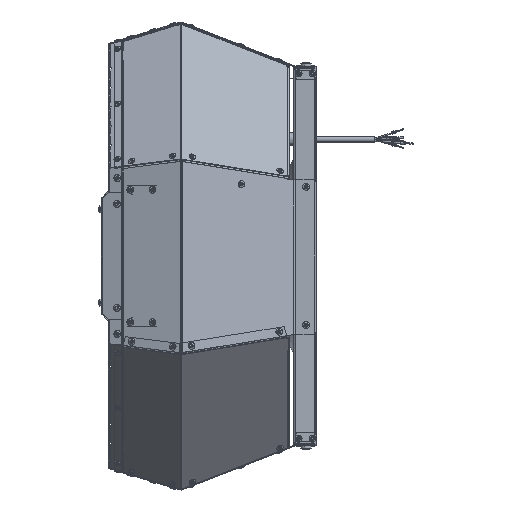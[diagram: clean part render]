
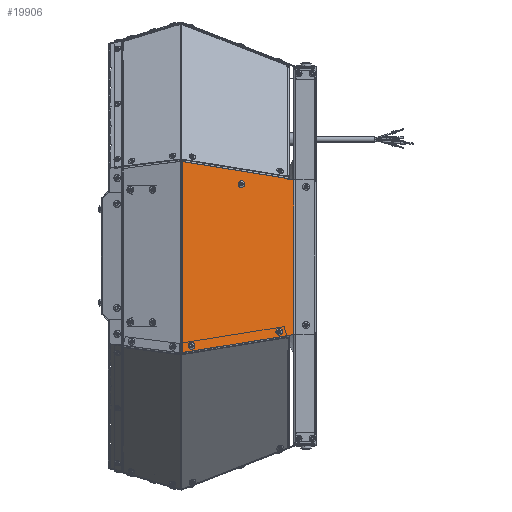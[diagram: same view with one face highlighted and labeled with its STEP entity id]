
A CAD part, left-side view. The second image highlights one B-rep face of the part: STEP entity #19906.
In plain terms, the highlighted planar face has unit normal (-0.932, -0.362, 0).
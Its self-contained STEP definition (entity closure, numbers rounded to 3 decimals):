
#12755 = VERTEX_POINT ( 'NONE', #91114 ) ;
#12794 = VERTEX_POINT ( 'NONE', #91034 ) ;
#12814 = VERTEX_POINT ( 'NONE', #91001 ) ;
#16757 = EDGE_CURVE ( 'NONE', #12814, #84422, #30127, .T. ) ;
#16817 = EDGE_CURVE ( 'NONE', #45753, #45780, #30209, .T. ) ;
#16847 = EDGE_CURVE ( 'NONE', #84906, #45780, #30253, .T. ) ;
#16850 = EDGE_CURVE ( 'NONE', #12755, #83929, #30260, .T. ) ;
#16856 = EDGE_CURVE ( 'NONE', #83929, #12755, #30270, .T. ) ;
#16858 = EDGE_CURVE ( 'NONE', #45457, #45544, #30273, .T. ) ;
#16864 = EDGE_CURVE ( 'NONE', #45544, #45457, #30279, .T. ) ;
#16874 = EDGE_CURVE ( 'NONE', #45523, #84374, #30299, .T. ) ;
#16878 = EDGE_CURVE ( 'NONE', #84897, #45504, #30305, .T. ) ;
#16881 = EDGE_CURVE ( 'NONE', #45504, #84897, #30315, .T. ) ;
#16883 = EDGE_CURVE ( 'NONE', #84906, #45523, #30318, .T. ) ;
#16888 = EDGE_CURVE ( 'NONE', #12794, #12814, #30328, .T. ) ;
#16890 = EDGE_CURVE ( 'NONE', #84422, #45753, #30331, .T. ) ;
#16922 = EDGE_CURVE ( 'NONE', #12794, #84374, #30364, .T. ) ;
#19906 = ADVANCED_FACE ( 'NONE', ( #102655, #102658, #102657, #102651 ), #29396, .F. ) ;
#28278 = CARTESIAN_POINT ( 'NONE',  ( -244.413, 64.192, 83.121 ) ) ;
#29389 = DIRECTION ( 'NONE',  ( -0.362, 0.932, 0. ) ) ;
#29394 = CARTESIAN_POINT ( 'NONE',  ( -270.653, 131.669, 111.75 ) ) ;
#29396 = PLANE ( 'NONE',  #99797 ) ;
#29405 = DIRECTION ( 'NONE',  ( 0.932, 0.362, 0. ) ) ;
#30127 = LINE ( 'NONE', #83074, #30133 ) ;
#30133 = VECTOR ( 'NONE', #83117, 1000. ) ;
#30209 = LINE ( 'NONE', #82779, #30213 ) ;
#30213 = VECTOR ( 'NONE', #82776, 1000. ) ;
#30253 = LINE ( 'NONE', #82584, #30258 ) ;
#30258 = VECTOR ( 'NONE', #82578, 1000. ) ;
#30260 = CIRCLE ( 'NONE', #73391, 2.1 ) ;
#30270 = CIRCLE ( 'NONE', #73392, 2.1 ) ;
#30273 = CIRCLE ( 'NONE', #73394, 2.1 ) ;
#30279 = CIRCLE ( 'NONE', #73397, 2.1 ) ;
#30299 = LINE ( 'NONE', #82476, #30304 ) ;
#30304 = VECTOR ( 'NONE', #82493, 1000. ) ;
#30305 = CIRCLE ( 'NONE', #73400, 2.1 ) ;
#30315 = CIRCLE ( 'NONE', #73401, 2.1 ) ;
#30318 = LINE ( 'NONE', #82398, #30322 ) ;
#30322 = VECTOR ( 'NONE', #82417, 1000. ) ;
#30328 = LINE ( 'NONE', #82358, #30333 ) ;
#30331 = LINE ( 'NONE', #82350, #30337 ) ;
#30333 = VECTOR ( 'NONE', #82353, 1000. ) ;
#30337 = VECTOR ( 'NONE', #82347, 1000. ) ;
#30364 = LINE ( 'NONE', #82173, #30370 ) ;
#30370 = VECTOR ( 'NONE', #82168, 1000. ) ;
#33673 = CARTESIAN_POINT ( 'NONE',  ( -266.884, 121.977, -103.806 ) ) ;
#33690 = CARTESIAN_POINT ( 'NONE',  ( -270.356, 130.903, 109.267 ) ) ;
#35651 = CARTESIAN_POINT ( 'NONE',  ( -270.33, 130.838, 109.34 ) ) ;
#35729 = CARTESIAN_POINT ( 'NONE',  ( -220.093, 1.654, 88.025 ) ) ;
#45457 = VERTEX_POINT ( 'NONE', #58393 ) ;
#45504 = VERTEX_POINT ( 'NONE', #58422 ) ;
#45523 = VERTEX_POINT ( 'NONE', #58433 ) ;
#45544 = VERTEX_POINT ( 'NONE', #58447 ) ;
#45753 = VERTEX_POINT ( 'NONE', #58576 ) ;
#45780 = VERTEX_POINT ( 'NONE', #58593 ) ;
#58393 = CARTESIAN_POINT ( 'NONE',  ( -227.456, 20.587, -87.481 ) ) ;
#58422 = CARTESIAN_POINT ( 'NONE',  ( -265.362, 118.063, -103.806 ) ) ;
#58433 = CARTESIAN_POINT ( 'NONE',  ( -270.34, 130.864, 109.267 ) ) ;
#58447 = CARTESIAN_POINT ( 'NONE',  ( -225.934, 16.673, -87.481 ) ) ;
#58576 = CARTESIAN_POINT ( 'NONE',  ( -220.093, 1.654, -90.93 ) ) ;
#58593 = CARTESIAN_POINT ( 'NONE',  ( -270.356, 130.903, -111.75 ) ) ;
#67280 = EDGE_LOOP ( 'NONE', ( #76424, #76426 ) ) ;
#67288 = EDGE_LOOP ( 'NONE', ( #76419, #76421 ) ) ;
#67294 = EDGE_LOOP ( 'NONE', ( #76433, #76436, #76440, #76443, #76446, #76448, #76451, #76453 ) ) ;
#67331 = EDGE_LOOP ( 'NONE', ( #76428, #76431 ) ) ;
#73391 = AXIS2_PLACEMENT_3D ( 'NONE', #82561, #82558, #82555 ) ;
#73392 = AXIS2_PLACEMENT_3D ( 'NONE', #82530, #82529, #82526 ) ;
#73394 = AXIS2_PLACEMENT_3D ( 'NONE', #82520, #82517, #82514 ) ;
#73397 = AXIS2_PLACEMENT_3D ( 'NONE', #82485, #82482, #82479 ) ;
#73400 = AXIS2_PLACEMENT_3D ( 'NONE', #82407, #82404, #82401 ) ;
#73401 = AXIS2_PLACEMENT_3D ( 'NONE', #82383, #82380, #82377 ) ;
#76419 = ORIENTED_EDGE ( 'NONE', *, *, #16850, .F. ) ;
#76421 = ORIENTED_EDGE ( 'NONE', *, *, #16856, .F. ) ;
#76424 = ORIENTED_EDGE ( 'NONE', *, *, #16858, .T. ) ;
#76426 = ORIENTED_EDGE ( 'NONE', *, *, #16864, .T. ) ;
#76428 = ORIENTED_EDGE ( 'NONE', *, *, #16878, .T. ) ;
#76431 = ORIENTED_EDGE ( 'NONE', *, *, #16881, .T. ) ;
#76433 = ORIENTED_EDGE ( 'NONE', *, *, #16874, .F. ) ;
#76436 = ORIENTED_EDGE ( 'NONE', *, *, #16883, .F. ) ;
#76440 = ORIENTED_EDGE ( 'NONE', *, *, #16847, .T. ) ;
#76443 = ORIENTED_EDGE ( 'NONE', *, *, #16817, .F. ) ;
#76446 = ORIENTED_EDGE ( 'NONE', *, *, #16890, .F. ) ;
#76448 = ORIENTED_EDGE ( 'NONE', *, *, #16757, .F. ) ;
#76451 = ORIENTED_EDGE ( 'NONE', *, *, #16888, .F. ) ;
#76453 = ORIENTED_EDGE ( 'NONE', *, *, #16922, .T. ) ;
#82168 = DIRECTION ( 'NONE',  ( -0.358, 0.922, 0.148 ) ) ;
#82173 = CARTESIAN_POINT ( 'NONE',  ( -220.221, 1.982, 88.584 ) ) ;
#82347 = DIRECTION ( 'NONE',  ( 0., 0., -1. ) ) ;
#82350 = CARTESIAN_POINT ( 'NONE',  ( -220.093, 1.654, 111.75 ) ) ;
#82353 = DIRECTION ( 'NONE',  ( 0., 0., -1. ) ) ;
#82358 = CARTESIAN_POINT ( 'NONE',  ( -222.634, 8.188, 88.025 ) ) ;
#82377 = DIRECTION ( 'NONE',  ( -0.362, 0.932, 0. ) ) ;
#82380 = DIRECTION ( 'NONE',  ( 0.932, 0.362, 0. ) ) ;
#82383 = CARTESIAN_POINT ( 'NONE',  ( -266.123, 120.02, -103.806 ) ) ;
#82398 = CARTESIAN_POINT ( 'NONE',  ( -270.34, 130.864, 109.267 ) ) ;
#82401 = DIRECTION ( 'NONE',  ( -0.362, 0.932, 0. ) ) ;
#82404 = DIRECTION ( 'NONE',  ( 0.932, 0.362, 0. ) ) ;
#82407 = CARTESIAN_POINT ( 'NONE',  ( -266.123, 120.02, -103.806 ) ) ;
#82417 = DIRECTION ( 'NONE',  ( 0.362, -0.932, 0. ) ) ;
#82476 = CARTESIAN_POINT ( 'NONE',  ( -270.34, 130.864, 109.267 ) ) ;
#82479 = DIRECTION ( 'NONE',  ( -0.362, 0.932, 0. ) ) ;
#82482 = DIRECTION ( 'NONE',  ( 0.932, 0.362, 0. ) ) ;
#82485 = CARTESIAN_POINT ( 'NONE',  ( -226.695, 18.63, -87.481 ) ) ;
#82493 = DIRECTION ( 'NONE',  ( 0.127, -0.327, 0.936 ) ) ;
#82514 = DIRECTION ( 'NONE',  ( -0.362, 0.932, 0. ) ) ;
#82517 = DIRECTION ( 'NONE',  ( 0.932, 0.362, 0. ) ) ;
#82520 = CARTESIAN_POINT ( 'NONE',  ( -226.695, 18.63, -87.481 ) ) ;
#82526 = DIRECTION ( 'NONE',  ( 0.362, -0.932, 0. ) ) ;
#82529 = DIRECTION ( 'NONE',  ( -0.932, -0.362, 0. ) ) ;
#82530 = CARTESIAN_POINT ( 'NONE',  ( -243.652, 62.234, 83.121 ) ) ;
#82555 = DIRECTION ( 'NONE',  ( 0.362, -0.932, 0. ) ) ;
#82558 = DIRECTION ( 'NONE',  ( -0.932, -0.362, 0. ) ) ;
#82561 = CARTESIAN_POINT ( 'NONE',  ( -243.652, 62.234, 83.121 ) ) ;
#82578 = DIRECTION ( 'NONE',  ( 0., 0., -1. ) ) ;
#82584 = CARTESIAN_POINT ( 'NONE',  ( -270.356, 130.903, 111.75 ) ) ;
#82776 = DIRECTION ( 'NONE',  ( -0.358, 0.922, -0.148 ) ) ;
#82779 = CARTESIAN_POINT ( 'NONE',  ( -220.093, 1.654, -90.93 ) ) ;
#83074 = CARTESIAN_POINT ( 'NONE',  ( -220.093, 1.654, 88.025 ) ) ;
#83117 = DIRECTION ( 'NONE',  ( 0.362, -0.932, 0. ) ) ;
#83929 = VERTEX_POINT ( 'NONE', #28278 ) ;
#84374 = VERTEX_POINT ( 'NONE', #35651 ) ;
#84422 = VERTEX_POINT ( 'NONE', #35729 ) ;
#84897 = VERTEX_POINT ( 'NONE', #33673 ) ;
#84906 = VERTEX_POINT ( 'NONE', #33690 ) ;
#91001 = CARTESIAN_POINT ( 'NONE',  ( -222.634, 8.188, 88.025 ) ) ;
#91034 = CARTESIAN_POINT ( 'NONE',  ( -222.634, 8.188, 89.583 ) ) ;
#91114 = CARTESIAN_POINT ( 'NONE',  ( -242.891, 60.277, 83.121 ) ) ;
#99797 = AXIS2_PLACEMENT_3D ( 'NONE', #29394, #29405, #29389 ) ;
#102651 = FACE_OUTER_BOUND ( 'NONE', #67294, .T. ) ;
#102655 = FACE_BOUND ( 'NONE', #67288, .T. ) ;
#102657 = FACE_BOUND ( 'NONE', #67331, .T. ) ;
#102658 = FACE_BOUND ( 'NONE', #67280, .T. ) ;
